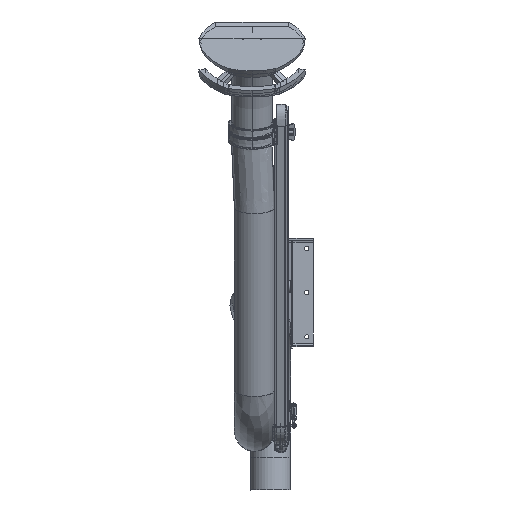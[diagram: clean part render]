
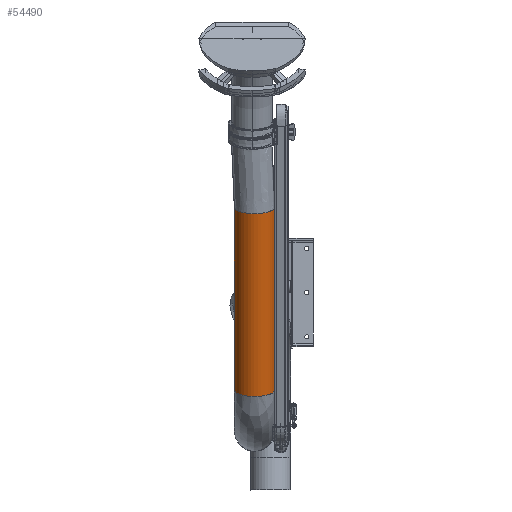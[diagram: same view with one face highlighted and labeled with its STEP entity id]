
A CAD part, front view. The second image highlights one B-rep face of the part: STEP entity #54490.
In plain terms, the highlighted free-form (B-spline) face has degree [3, 3] with [7, 6] control points.
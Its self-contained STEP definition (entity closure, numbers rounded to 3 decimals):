
#52595=CARTESIAN_POINT('',(-112.5,0.,-275.));
#52596=CARTESIAN_POINT('',(-112.5,0.,-341.667));
#52597=CARTESIAN_POINT('',(-112.5,0.,-475.));
#52598=CARTESIAN_POINT('',(-112.5,0.,-675.));
#52599=CARTESIAN_POINT('',(-112.5,0.,-808.333));
#52600=CARTESIAN_POINT('',(-112.5,0.,-875.));
#52605=CARTESIAN_POINT('',(-50.,0.,-275.));
#52606=DIRECTION('',(0.,0.,-1.));
#52607=DIRECTION('',(1.,0.,0.));
#52608=AXIS2_PLACEMENT_3D('',#52605,#52606,#52607);
#52613=CARTESIAN_POINT('',(12.5,0.,-275.));
#52614=CARTESIAN_POINT('',(12.5,0.,-341.667));
#52615=CARTESIAN_POINT('',(12.5,0.,-475.));
#52616=CARTESIAN_POINT('',(12.5,0.,-675.));
#52617=CARTESIAN_POINT('',(12.5,0.,-808.333));
#52618=CARTESIAN_POINT('',(12.5,0.,-875.));
#52623=CARTESIAN_POINT('',(-50.,0.,-875.));
#52624=DIRECTION('',(0.,0.,-1.));
#52625=DIRECTION('',(1.,0.,0.));
#52626=AXIS2_PLACEMENT_3D('',#52623,#52624,#52625);
#54127=CARTESIAN_POINT('',(12.5,0.,-275.));
#54128=CARTESIAN_POINT('',(-112.5,0.,-275.));
#54129=VERTEX_POINT('',#54127);
#54130=VERTEX_POINT('',#54128);
#54135=CARTESIAN_POINT('',(12.5,0.,-875.));
#54136=CARTESIAN_POINT('',(-112.5,0.,-875.));
#54137=VERTEX_POINT('',#54135);
#54138=VERTEX_POINT('',#54136);
#54440=CARTESIAN_POINT('',(12.377,3.924,-263.));
#54441=CARTESIAN_POINT('',(12.377,3.924,-267.));
#54442=CARTESIAN_POINT('',(12.377,3.924,-471.));
#54443=CARTESIAN_POINT('',(12.377,3.924,-679.));
#54444=CARTESIAN_POINT('',(12.377,3.924,-883.));
#54445=CARTESIAN_POINT('',(12.377,3.924,-887.));
#54446=CARTESIAN_POINT('',(14.792,-34.462,-263.));
#54447=CARTESIAN_POINT('',(14.792,-34.462,-267.));
#54448=CARTESIAN_POINT('',(14.792,-34.462,-471.));
#54449=CARTESIAN_POINT('',(14.792,-34.462,-679.));
#54450=CARTESIAN_POINT('',(14.792,-34.462,-883.));
#54451=CARTESIAN_POINT('',(14.792,-34.462,-887.));
#54452=CARTESIAN_POINT('',(-11.538,-62.5,-263.));
#54453=CARTESIAN_POINT('',(-11.538,-62.5,-267.));
#54454=CARTESIAN_POINT('',(-11.538,-62.5,-471.));
#54455=CARTESIAN_POINT('',(-11.538,-62.5,-679.));
#54456=CARTESIAN_POINT('',(-11.538,-62.5,-883.));
#54457=CARTESIAN_POINT('',(-11.538,-62.5,-887.));
#54458=CARTESIAN_POINT('',(-50.,-62.5,-263.));
#54459=CARTESIAN_POINT('',(-50.,-62.5,-267.));
#54460=CARTESIAN_POINT('',(-50.,-62.5,-471.));
#54461=CARTESIAN_POINT('',(-50.,-62.5,-679.));
#54462=CARTESIAN_POINT('',(-50.,-62.5,-883.));
#54463=CARTESIAN_POINT('',(-50.,-62.5,-887.));
#54464=CARTESIAN_POINT('',(-88.462,-62.5,-263.));
#54465=CARTESIAN_POINT('',(-88.462,-62.5,-267.));
#54466=CARTESIAN_POINT('',(-88.462,-62.5,-471.));
#54467=CARTESIAN_POINT('',(-88.462,-62.5,-679.));
#54468=CARTESIAN_POINT('',(-88.462,-62.5,-883.));
#54469=CARTESIAN_POINT('',(-88.462,-62.5,-887.));
#54470=CARTESIAN_POINT('',(-114.792,-34.462,-263.));
#54471=CARTESIAN_POINT('',(-114.792,-34.462,-267.));
#54472=CARTESIAN_POINT('',(-114.792,-34.462,-471.));
#54473=CARTESIAN_POINT('',(-114.792,-34.462,-679.));
#54474=CARTESIAN_POINT('',(-114.792,-34.462,-883.));
#54475=CARTESIAN_POINT('',(-114.792,-34.462,-887.));
#54476=CARTESIAN_POINT('',(-112.377,3.924,-263.));
#54477=CARTESIAN_POINT('',(-112.377,3.924,-267.));
#54478=CARTESIAN_POINT('',(-112.377,3.924,-471.));
#54479=CARTESIAN_POINT('',(-112.377,3.924,-679.));
#54480=CARTESIAN_POINT('',(-112.377,3.924,-883.));
#54481=CARTESIAN_POINT('',(-112.377,3.924,-887.));
#54482=(BOUNDED_SURFACE()B_SPLINE_SURFACE(3,3,((#54440,#54441,#54442,#54443,
#54444,#54445),(#54446,#54447,#54448,#54449,#54450,#54451),(#54452,#54453,
#54454,#54455,#54456,#54457),(#54458,#54459,#54460,#54461,#54462,#54463),
(#54464,#54465,#54466,#54467,#54468,#54469),(#54470,#54471,#54472,#54473,#54474,
#54475),(#54476,#54477,#54478,#54479,#54480,#54481)),.UNSPECIFIED.,.F.,.F.,.F.)B_SPLINE_SURFACE_WITH_KNOTS((4,3,4),(4,1,1,4),(0.,1.,2.),(-0.02,0.,1.,
1.02),.UNSPECIFIED.)GEOMETRIC_REPRESENTATION_ITEM()RATIONAL_B_SPLINE_SURFACE((
(1.187,1.187,1.187,1.187,
1.187,1.187),(0.938,0.938,
0.938,0.938,0.938,0.938),(
0.938,0.938,0.938,0.938,
0.938,0.938),(1.187,1.187,
1.187,1.187,1.187,1.187),(
0.938,0.938,0.938,0.938,
0.938,0.938),(0.938,0.938,
0.938,0.938,0.938,0.938),(
1.187,1.187,1.187,1.187,
1.187,1.187)))REPRESENTATION_ITEM('')SURFACE());
#54483=ORIENTED_EDGE('',*,*,#54287,.F.);
#54484=ORIENTED_EDGE('',*,*,#54428,.T.);
#54486=ORIENTED_EDGE('',*,*,#54485,.T.);
#54487=ORIENTED_EDGE('',*,*,#54424,.F.);
#54488=EDGE_LOOP('',(#54483,#54484,#54486,#54487));
#54489=FACE_OUTER_BOUND('',#54488,.F.);
#52601=B_SPLINE_CURVE_WITH_KNOTS('',3,(#52595,#52596,#52597,#52598,#52599,
#52600),.UNSPECIFIED.,.F.,.F.,(4,1,1,4),(0.,0.333,
0.667,1.),.UNSPECIFIED.);
#52609=CIRCLE('',#52608,62.5);
#52619=B_SPLINE_CURVE_WITH_KNOTS('',3,(#52613,#52614,#52615,#52616,#52617,
#52618),.UNSPECIFIED.,.F.,.F.,(4,1,1,4),(0.,0.333,
0.667,1.),.UNSPECIFIED.);
#52627=CIRCLE('',#52626,62.5);
#54287=EDGE_CURVE('',#54129,#54130,#52609,.T.);
#54424=EDGE_CURVE('',#54130,#54138,#52601,.T.);
#54428=EDGE_CURVE('',#54129,#54137,#52619,.T.);
#54485=EDGE_CURVE('',#54137,#54138,#52627,.T.);
#54490=ADVANCED_FACE('',(#54489),#54482,.T.);
